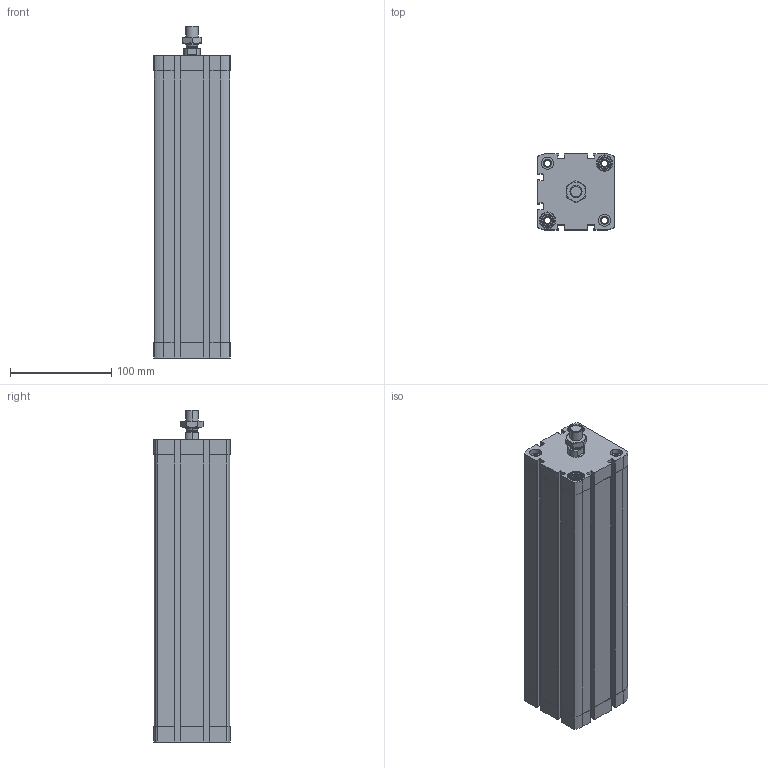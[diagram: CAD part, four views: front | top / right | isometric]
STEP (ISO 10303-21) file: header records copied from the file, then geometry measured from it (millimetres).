
FILE_DESCRIPTION (( 'STEP AP203' ), '1' );
FILE_NAME ('CCN63-250M.STEP', '2017-04-05T18:26:13', ( '' ), ( '' ), 'SwSTEP 2.0', 'SolidWorks 2016', '' );
FILE_SCHEMA (( 'CONFIG_CONTROL_DESIGN' ));
Length unit declared in the file: millimetre
Products named in the file (4): CCN63-250M; CCN---(Z); CCN-(KS); _DIN-439-B - M12x1.25(F)
Assembly tree (3 placements, depth 2):
  CCN63-250M
    CCN---(Z)
    CCN-(KS)
    _DIN-439-B - M12x1.25(F)
Bounding box: 75.5 x 75.5 x 328.5 mm (x, y, z)
Volume: 844597.2 mm3; surface area: 233584.8 mm2
Topology: 3 solids, 3 shells, 491 faces, 1320 edges, 866 vertices
Faces by surface type: plane 227, cylinder 212, cone 48, bspline 4
Entity records: 16112 total; most frequent: CARTESIAN_POINT 3143, DIRECTION 2680, ORIENTED_EDGE 2640, EDGE_CURVE 1320, AXIS2_PLACEMENT_3D 981, VERTEX_POINT 866, LINE 718, VECTOR 718
